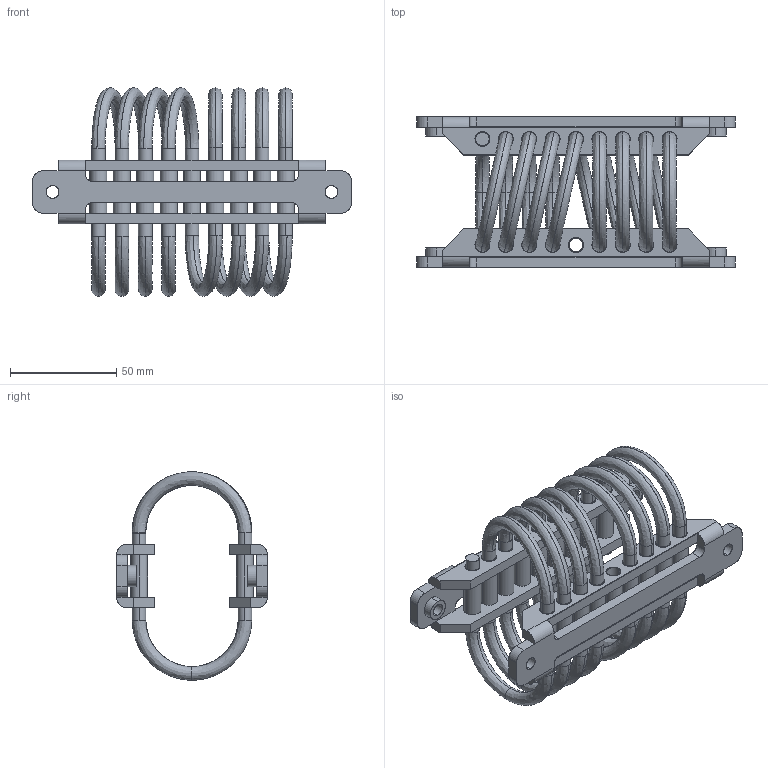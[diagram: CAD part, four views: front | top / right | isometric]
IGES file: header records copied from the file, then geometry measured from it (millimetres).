
Start section: SolidWorks IGES file using analytic representation for surfaces
Bounding box: 150 x 70.8 x 97.99 mm (x, y, z)
Surface area: 77560.5 mm2 (no closed solid volume)
Topology: 0 solids, 0 shells, 260 faces, 6656 edges, 6656 vertices
Faces by surface type: bspline 142, revolution 118
